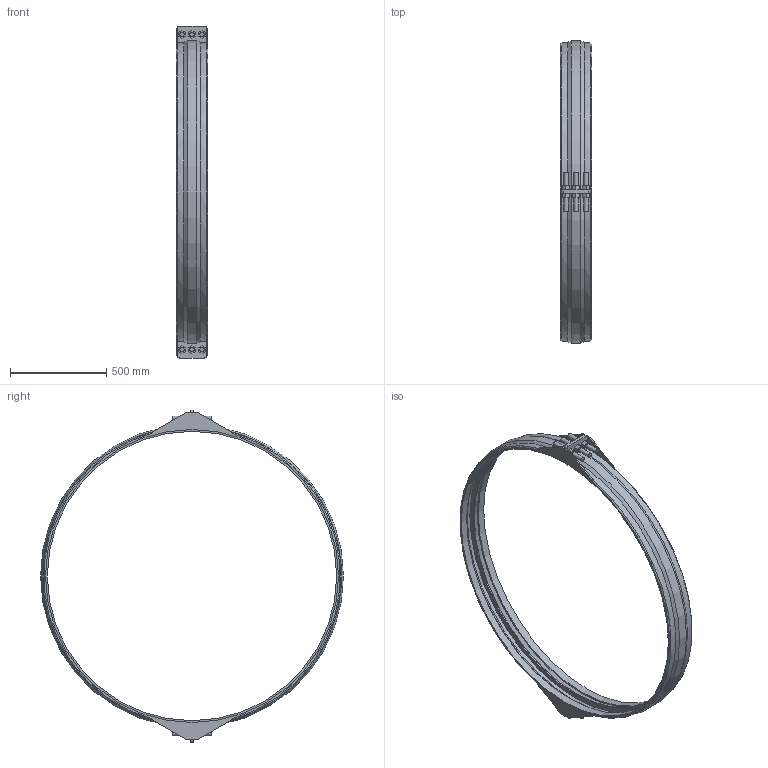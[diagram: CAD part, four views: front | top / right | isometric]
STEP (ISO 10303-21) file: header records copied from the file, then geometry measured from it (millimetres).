
FILE_DESCRIPTION(/* description */ ('VIC SS RESTRAINED COUPLING STYLE 234S (FLEX) (BRS)','CAx-IF Rec.Pracs.---Representation and Presentation of Product Manufacturing Information (PMI)---4.0---2014-10-13'),/* implementation_level */ '2;1');
FILE_NAME(/* name */ 'C:\Users\kkamble\AppData\Roaming\Autodesk\ApplicationPlugins\Back Up\Victaulic_VBSP_Coupling Flexible Restrained_Style 234S (BRS)\Victaulic_VBSP_Coupling Flexible Restrained_Style 234S (BRS)_100psi_60 (1500).stp',/* time_stamp */ '2020-09-22T18:42:43+05:00',/* author */ ('Vjadhav'),/* organization */ ('Victaulic'),/* preprocessor_version */ 'ST-DEVELOPER v17.2',/* originating_system */ 'Autodesk Inventor 2019',/* authorisation */ '');
FILE_SCHEMA (('AP242_MANAGED_MODEL_BASED_3D_ENGINEERING_MIM_LF { 1 0 10303 442 1 1 4 }'));
Length unit declared in the file: inch
Products named in the file (1): Style_234S_Type_2_100psi-60.0
Bounding box: 165.1 x 1575.3 x 1727.2 mm (x, y, z)
Volume: 12436860.9 mm3; surface area: 2349117.4 mm2
Topology: 1 solids, 1 shells, 191 faces, 477 edges, 316 vertices
Faces by surface type: plane 136, cylinder 43, torus 6, cone 6
Full cylindrical faces by diameter (mm): 22.225 x12, 1504.95 x1, 1524 x2, 1556.253 x2
Entity records: 6146 total; most frequent: CARTESIAN_POINT 1138, DIRECTION 997, ORIENTED_EDGE 954, EDGE_CURVE 477, LINE 351, VECTOR 351, AXIS2_PLACEMENT_3D 323, VERTEX_POINT 316
